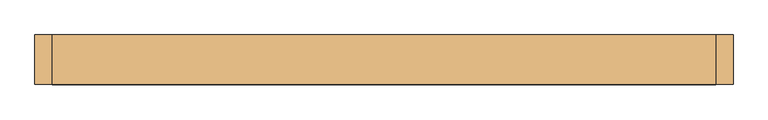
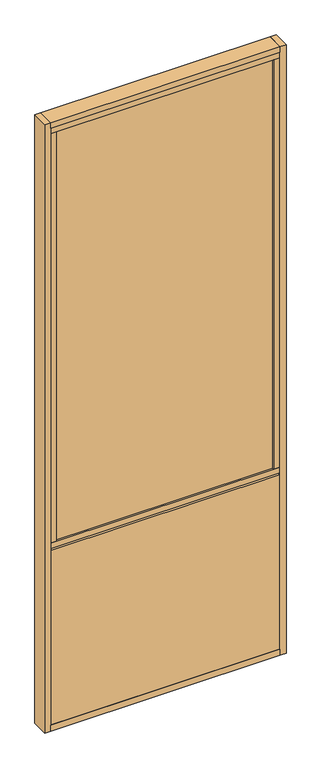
"""IFC4 building model written with IfcOpenShell, lengths in millimetres: door geometry, Mobiliário_Mobiliário de Escritório_Painel Misto Vidro Duplo com Persiana - AET e AEL (Completo)_Marelli : AET - Temperado."""

import ifcopenshell
import ifcopenshell.guid

model = None  # the IFC model being written
_history = None  # IfcOwnerHistory: only IFC2X3 demands one
_inside = {}  # id of a spatial element -> (the spatial element, [elements in it])
_under = {}  # id of a project, library or spatial element -> (it, [spatial elements below it])
_declared = {}  # id of a project -> (the project, [libraries it declares])
_typed = {}  # id of a type object -> (the type object, [elements of that type])
_made_of = {}  # id of a material, layer set ... -> (it, [elements and type objects made of it])


def new_model(schema):
    """Start an empty IFC model of exactly this schema.

    Asked for "IFC4X3", IfcOpenShell would pick the latest addendum, in which some entities
    have other attributes; the version numbers below select the first issue.
    IFC2X3 requires an IfcOwnerHistory on every rooted entity: one is made here for all.
    """
    global model, _history
    if schema == "IFC4X3":
        model = ifcopenshell.file(schema_version=(4, 3, 0, 0))
    else:
        model = ifcopenshell.file(schema=schema)
    _inside.clear()
    _under.clear()
    _declared.clear()
    _typed.clear()
    _made_of.clear()
    _history = None
    if model.schema == "IFC2X3":
        org = make("IfcOrganization", Name="unknown")
        user = make(
            "IfcPersonAndOrganization",
            ThePerson=make("IfcPerson", FamilyName="unknown"),
            TheOrganization=org,
        )
        app = make(
            "IfcApplication",
            ApplicationDeveloper=org,
            Version="unknown",
            ApplicationFullName="unknown",
            ApplicationIdentifier="unknown",
        )
        _history = make(
            "IfcOwnerHistory",
            OwningUser=user,
            OwningApplication=app,
            ChangeAction="ADDED",
            CreationDate=0,
        )
    return model


def make(cls, **values):
    """One entity of the class cls with the attributes given. An attribute that is None is left unset."""
    return model.create_entity(
        cls, **{name: value for name, value in values.items() if value is not None}
    )


def rooted(cls, **values):
    """An entity with a GlobalId (a new one), such as an element, a storey or a relation."""
    return make(cls, GlobalId=ifcopenshell.guid.new(), OwnerHistory=_history, **values)


def si_unit(unit_type, name, prefix=None):
    """IfcSIUnit, for example si_unit("LENGTHUNIT", "METRE", prefix="MILLI")."""
    return make("IfcSIUnit", UnitType=unit_type, Prefix=prefix, Name=name)


def assignment(units):
    """IfcUnitAssignment: the units of a project."""
    return None if units is None else make("IfcUnitAssignment", Units=units)


def point(xyz):
    """IfcCartesianPoint."""
    return None if xyz is None else make("IfcCartesianPoint", Coordinates=xyz)


def direction(xyz):
    """IfcDirection."""
    return None if xyz is None else make("IfcDirection", DirectionRatios=xyz)


def frame(location, z_axis=None, x_axis=None):
    """IfcAxis2Placement3D, a coordinate frame: its origin and axes. An axis left out is left unset."""
    return make(
        "IfcAxis2Placement3D",
        Location=point(location),
        Axis=direction(z_axis),
        RefDirection=direction(x_axis),
    )


def origin():
    """The frame at (0, 0, 0) with its axes left unset."""
    return frame((0.0, 0.0, 0.0))


def origin_with_axes():
    """The frame at (0, 0, 0) with the z axis (0, 0, 1) and the x axis (1, 0, 0) written out."""
    return frame((0.0, 0.0, 0.0), z_axis=(0.0, 0.0, 1.0), x_axis=(1.0, 0.0, 0.0))


def place(relative_to, where):
    """IfcLocalPlacement: puts the frame where relative to a parent placement (None: the world)."""
    return make(
        "IfcLocalPlacement", PlacementRelTo=relative_to, RelativePlacement=where
    )


def context(
    kind, dimensions, precision=None, world=None, true_north=None, identifier=None
):
    """IfcGeometricRepresentationContext, for example the 3D "Model" context."""
    return make(
        "IfcGeometricRepresentationContext",
        ContextIdentifier=identifier,
        ContextType=kind,
        CoordinateSpaceDimension=dimensions,
        Precision=precision,
        WorldCoordinateSystem=world,
        TrueNorth=true_north,
    )


def project(units=None, contexts=None):
    """IfcProject with its units and contexts."""
    return rooted(
        "IfcProject",
        Name="project",
        RepresentationContexts=contexts,
        UnitsInContext=assignment(units),
    )


def spatial(cls, under=None, at=None, **own):
    """A site, building, storey or space (cls), placed at a placement, below another one or the project."""
    s = rooted(cls, ObjectPlacement=at, **own)
    if under is not None:
        _under.setdefault(under.id(), (under, []))[1].append(s)
    return s


def polyline(points):
    """IfcPolyline through the points."""
    return make("IfcPolyline", Points=[point(p) for p in points])


def outline(outer, holes=None, kind="AREA"):
    """IfcArbitraryClosedProfileDef: a profile drawn as a closed curve; with holes, ...WithVoids."""
    if holes is None:
        return make("IfcArbitraryClosedProfileDef", ProfileType=kind, OuterCurve=outer)
    return make(
        "IfcArbitraryProfileDefWithVoids",
        ProfileType=kind,
        OuterCurve=outer,
        InnerCurves=holes,
    )


def extrude(swept, where, along, depth):
    """IfcExtrudedAreaSolid: the profile swept, set in the frame where, extruded along a direction by depth."""
    return make(
        "IfcExtrudedAreaSolid",
        SweptArea=swept,
        Position=where,
        ExtrudedDirection=direction(along),
        Depth=depth,
    )


def shape(context_of_items, identifier, shape_type, items):
    """IfcShapeRepresentation: the items that make up one representation, for example the "Body"."""
    return make(
        "IfcShapeRepresentation",
        ContextOfItems=context_of_items,
        RepresentationIdentifier=identifier,
        RepresentationType=shape_type,
        Items=items,
    )


def source(mapping_origin, context_of_items, identifier, shape_type, items):
    """IfcRepresentationMap: a shape defined once, which mapped items show again and again."""
    return make(
        "IfcRepresentationMap",
        MappingOrigin=mapping_origin,
        MappedRepresentation=shape(context_of_items, identifier, shape_type, items),
    )


def transform(
    local_origin,
    x_axis=None,
    y_axis=None,
    z_axis=None,
    scale=None,
    scale2=None,
    scale3=None,
    uniform=True,
):
    """IfcCartesianTransformationOperator3D, or its non-uniform kind. x_axis, y_axis, z_axis: its Axis1, 2, 3."""
    if uniform:
        return make(
            "IfcCartesianTransformationOperator3D",
            Axis1=direction(x_axis),
            Axis2=direction(y_axis),
            LocalOrigin=point(local_origin),
            Scale=scale,
            Axis3=direction(z_axis),
        )
    return make(
        "IfcCartesianTransformationOperator3DnonUniform",
        Axis1=direction(x_axis),
        Axis2=direction(y_axis),
        LocalOrigin=point(local_origin),
        Scale=scale,
        Axis3=direction(z_axis),
        Scale2=scale2,
        Scale3=scale3,
    )


def mapped(mapping_source, mapping_target):
    """IfcMappedItem: shows the shape of a source again, moved by a transform."""
    return make(
        "IfcMappedItem", MappingSource=mapping_source, MappingTarget=mapping_target
    )


def made_of(thing, what):
    """Note that an element or type object is made of a material, layer set ...; save() writes the relation."""
    if what is not None:
        _made_of.setdefault(what.id(), (what, []))[1].append(thing)
    return thing


def element(
    cls,
    number,
    at=None,
    inside=None,
    cuts=None,
    type_object=None,
    material=None,
    context=None,
    identifier="Body",
    shape_type=None,
    held_by="IfcProductDefinitionShape",
    body=None,
    shapes=None,
    **own,
):
    """One element of the class cls, such as IfcWall. Its Tag is "e" and its number.

    at: its placement. inside: the storey or other place that contains it. cuts: it is an
    opening in that element (IfcRelVoidsElement). A single representation is given by context,
    identifier, shape_type and body (its items); several are given by shapes. held_by: the class
    of the entity that holds the representations. save() writes the other relations.
    """
    e = rooted(cls, Tag="e%d" % number, ObjectPlacement=at, **own)
    if body is not None:
        shapes = [shape(context, identifier, shape_type, body)]
    if shapes is not None:
        e.Representation = make(held_by, Representations=shapes)
    if inside is not None:
        _inside.setdefault(inside.id(), (inside, []))[1].append(e)
    if cuts is not None:
        rooted(
            "IfcRelVoidsElement", RelatingBuildingElement=cuts, RelatedOpeningElement=e
        )
    if type_object is not None:
        _typed.setdefault(type_object.id(), (type_object, []))[1].append(e)
    return made_of(e, material)


def aggregate(whole, parts):
    """IfcRelAggregates: a whole, such as a stair, and the parts it consists of."""
    return rooted("IfcRelAggregates", RelatingObject=whole, RelatedObjects=parts)


def save(model, path):
    """Write the relations noted so far, then the file.

    IfcRelAggregates (storeys below a building ...), IfcRelContainedInSpatialStructure (elements
    in a storey), IfcRelDefinesByType, IfcRelAssociatesMaterial and IfcRelDeclares: one each for
    every whole, place, type object, material and project.
    """
    for whole, parts in _under.values():
        aggregate(whole, parts)
    for where, things in _inside.values():
        rooted(
            "IfcRelContainedInSpatialStructure",
            RelatedElements=things,
            RelatingStructure=where,
        )
    for kind, things in _typed.values():
        rooted("IfcRelDefinesByType", RelatedObjects=things, RelatingType=kind)
    for what, things in _made_of.values():
        rooted("IfcRelAssociatesMaterial", RelatedObjects=things, RelatingMaterial=what)
    for by, libraries in _declared.values():
        rooted("IfcRelDeclares", RelatingContext=by, RelatedDefinitions=libraries)
    model.write(path)


def door_84ce494f(model_context):
    return source(origin(), model_context, "Body", "SweptSolid", [
        extrude(outline(polyline([(570.0, 42.5), (570.0, -42.5), (-570.0, -42.5), (-570.0, 42.5), (570.0, 42.5)])), origin_with_axes(), (0.0, 0.0, 1.0), 30.0),
        extrude(outline(polyline([(570.0, 39.5), (570.0, 21.5), (-570.0, 21.5), (-570.0, 39.5), (570.0, 39.5)])), frame((0.0, 0.0, 30.0), z_axis=(0.0, 0.0, 1.0), x_axis=(1.0, 0.0, 0.0)), (0.0, 0.0, 1.0), 916.5),
        extrude(outline(polyline([(570.0, 21.5), (570.0, -21.5), (-570.0, -21.5), (-570.0, 21.5), (570.0, 21.5)])), frame((0.0, 0.0, 913.5), z_axis=(0.0, 0.0, 1.0), x_axis=(1.0, 0.0, 0.0)), (0.0, 0.0, 1.0), 43.0),
        extrude(outline(polyline([(570.0, -39.5), (-570.0, -39.5), (-570.0, -21.5), (570.0, -21.5), (570.0, -39.5)])), frame((0.0, 0.0, 30.0), z_axis=(0.0, 0.0, 1.0), x_axis=(1.0, 0.0, 0.0)), (0.0, 0.0, 1.0), 916.5),
        extrude(outline(polyline([(570.0, 39.5), (570.0, -39.5), (-570.0, -39.5), (-570.0, 39.5), (570.0, 39.5)])), frame((0.0, 0.0, 956.5), z_axis=(0.0, 0.0, 1.0), x_axis=(1.0, 0.0, 0.0)), (0.0, 0.0, 1.0), 30.0),
        extrude(outline(polyline([(570.0, 42.5), (570.0, -42.5), (-570.0, -42.5), (-570.0, 42.5), (570.0, 42.5)])), frame((0.0, 0.0, 3170.0), z_axis=(0.0, 0.0, 1.0), x_axis=(1.0, 0.0, 0.0)), (0.0, 0.0, 1.0), 30.0),
        extrude(outline(polyline([(570.0, 39.5), (570.0, -39.5), (-570.0, -39.5), (-570.0, 39.5), (570.0, 39.5)])), frame((0.0, 0.0, 3140.0), z_axis=(0.0, 0.0, 1.0), x_axis=(1.0, 0.0, 0.0)), (0.0, 0.0, 1.0), 30.0),
        extrude(outline(polyline([(540.0, 13.6216022), (540.0, -11.3783978), (-540.0, -11.3783978), (-540.0, 13.6216022), (540.0, 13.6216022)])), frame((0.0, 0.0, 3107.0), z_axis=(0.0, 0.0, 1.0), x_axis=(1.0, 0.0, 0.0)), (0.0, 0.0, 1.0), 25.0),
        extrude(outline(polyline([(-600.0, -42.5), (-600.0, 42.5), (-570.0, 42.5), (-570.0, -42.5), (-600.0, -42.5)])), origin_with_axes(), (0.0, 0.0, 1.0), 3200.0),
        extrude(outline(polyline([(600.0, -42.5), (570.0, -42.5), (570.0, 42.5), (600.0, 42.5), (600.0, -42.5)])), origin_with_axes(), (0.0, 0.0, 1.0), 3200.0),
        extrude(outline(polyline([(-540.0, 39.5), (-540.0, -39.5), (-570.0, -39.5), (-570.0, 39.5), (-540.0, 39.5)])), frame((0.0, 0.0, 986.5), z_axis=(0.0, 0.0, 1.0), x_axis=(1.0, 0.0, 0.0)), (0.0, 0.0, 1.0), 2153.5),
        extrude(outline(polyline([(540.0, 39.5), (570.0, 39.5), (570.0, -39.5), (540.0, -39.5), (540.0, 39.5)])), frame((0.0, 0.0, 986.5), z_axis=(0.0, 0.0, 1.0), x_axis=(1.0, 0.0, 0.0)), (0.0, 0.0, 1.0), 2153.5),
        extrude(outline(polyline([(540.0, 31.0), (540.0, 25.0), (-540.0, 25.0), (-540.0, 31.0), (540.0, 31.0)])), frame((0.0, 0.0, 986.5), z_axis=(0.0, 0.0, 1.0), x_axis=(1.0, 0.0, 0.0)), (0.0, 0.0, 1.0), 2153.5),
        extrude(outline(polyline([(540.0, -25.0), (540.0, -31.0), (-540.0, -31.0), (-540.0, -25.0), (540.0, -25.0)])), frame((0.0, 0.0, 986.5), z_axis=(0.0, 0.0, 1.0), x_axis=(1.0, 0.0, 0.0)), (0.0, 0.0, 1.0), 2153.5),
        extrude(outline(polyline([(540.0, 8.0), (540.0, -8.0), (-540.0, -8.0), (-540.0, 8.0), (540.0, 8.0)])), frame((0.0, 0.0, 1051.2), z_axis=(0.0, 0.0, 1.0), x_axis=(1.0, 0.0, 0.0)), (0.0, 0.0, 1.0), 0.8),
        extrude(outline(polyline([(540.0, 8.0), (540.0, -8.0), (-540.0, -8.0), (-540.0, 8.0), (540.0, 8.0)])), frame((0.0, 0.0, 1081.2), z_axis=(0.0, 0.0, 1.0), x_axis=(1.0, 0.0, 0.0)), (0.0, 0.0, 1.0), 0.8),
        extrude(outline(polyline([(540.0, 8.0), (540.0, -8.0), (-540.0, -8.0), (-540.0, 8.0), (540.0, 8.0)])), frame((0.0, 0.0, 1111.2), z_axis=(0.0, 0.0, 1.0), x_axis=(1.0, 0.0, 0.0)), (0.0, 0.0, 1.0), 0.8),
        extrude(outline(polyline([(540.0, 8.0), (540.0, -8.0), (-540.0, -8.0), (-540.0, 8.0), (540.0, 8.0)])), frame((0.0, 0.0, 1141.2), z_axis=(0.0, 0.0, 1.0), x_axis=(1.0, 0.0, 0.0)), (0.0, 0.0, 1.0), 0.8),
        extrude(outline(polyline([(540.0, 8.0), (540.0, -8.0), (-540.0, -8.0), (-540.0, 8.0), (540.0, 8.0)])), frame((0.0, 0.0, 1171.2), z_axis=(0.0, 0.0, 1.0), x_axis=(1.0, 0.0, 0.0)), (0.0, 0.0, 1.0), 0.8),
        extrude(outline(polyline([(540.0, 8.0), (540.0, -8.0), (-540.0, -8.0), (-540.0, 8.0), (540.0, 8.0)])), frame((0.0, 0.0, 1021.2), z_axis=(0.0, 0.0, 1.0), x_axis=(1.0, 0.0, 0.0)), (0.0, 0.0, 1.0), 0.8),
        extrude(outline(polyline([(540.0, 8.0), (540.0, -8.0), (-540.0, -8.0), (-540.0, 8.0), (540.0, 8.0)])), frame((0.0, 0.0, 3091.2), z_axis=(0.0, 0.0, 1.0), x_axis=(1.0, 0.0, 0.0)), (0.0, 0.0, 1.0), 0.8),
        extrude(outline(polyline([(540.0, 8.0), (540.0, -8.0), (-540.0, -8.0), (-540.0, 8.0), (540.0, 8.0)])), frame((0.0, 0.0, 3061.2), z_axis=(0.0, 0.0, 1.0), x_axis=(1.0, 0.0, 0.0)), (0.0, 0.0, 1.0), 0.8),
        extrude(outline(polyline([(540.0, 8.0), (540.0, -8.0), (-540.0, -8.0), (-540.0, 8.0), (540.0, 8.0)])), frame((0.0, 0.0, 3031.2), z_axis=(0.0, 0.0, 1.0), x_axis=(1.0, 0.0, 0.0)), (0.0, 0.0, 1.0), 0.8),
        extrude(outline(polyline([(540.0, 8.0), (540.0, -8.0), (-540.0, -8.0), (-540.0, 8.0), (540.0, 8.0)])), frame((0.0, 0.0, 3001.2), z_axis=(0.0, 0.0, 1.0), x_axis=(1.0, 0.0, 0.0)), (0.0, 0.0, 1.0), 0.8),
        extrude(outline(polyline([(540.0, 8.0), (540.0, -8.0), (-540.0, -8.0), (-540.0, 8.0), (540.0, 8.0)])), frame((0.0, 0.0, 2971.2), z_axis=(0.0, 0.0, 1.0), x_axis=(1.0, 0.0, 0.0)), (0.0, 0.0, 1.0), 0.8),
        extrude(outline(polyline([(540.0, 8.0), (540.0, -8.0), (-540.0, -8.0), (-540.0, 8.0), (540.0, 8.0)])), frame((0.0, 0.0, 2941.2), z_axis=(0.0, 0.0, 1.0), x_axis=(1.0, 0.0, 0.0)), (0.0, 0.0, 1.0), 0.8),
        extrude(outline(polyline([(540.0, 8.0), (540.0, -8.0), (-540.0, -8.0), (-540.0, 8.0), (540.0, 8.0)])), frame((0.0, 0.0, 2911.2), z_axis=(0.0, 0.0, 1.0), x_axis=(1.0, 0.0, 0.0)), (0.0, 0.0, 1.0), 0.8),
        extrude(outline(polyline([(540.0, 8.0), (540.0, -8.0), (-540.0, -8.0), (-540.0, 8.0), (540.0, 8.0)])), frame((0.0, 0.0, 2881.2), z_axis=(0.0, 0.0, 1.0), x_axis=(1.0, 0.0, 0.0)), (0.0, 0.0, 1.0), 0.8),
        extrude(outline(polyline([(540.0, 8.0), (540.0, -8.0), (-540.0, -8.0), (-540.0, 8.0), (540.0, 8.0)])), frame((0.0, 0.0, 2851.2), z_axis=(0.0, 0.0, 1.0), x_axis=(1.0, 0.0, 0.0)), (0.0, 0.0, 1.0), 0.8),
        extrude(outline(polyline([(540.0, 8.0), (540.0, -8.0), (-540.0, -8.0), (-540.0, 8.0), (540.0, 8.0)])), frame((0.0, 0.0, 2821.2), z_axis=(0.0, 0.0, 1.0), x_axis=(1.0, 0.0, 0.0)), (0.0, 0.0, 1.0), 0.8),
        extrude(outline(polyline([(540.0, 8.0), (540.0, -8.0), (-540.0, -8.0), (-540.0, 8.0), (540.0, 8.0)])), frame((0.0, 0.0, 2791.2), z_axis=(0.0, 0.0, 1.0), x_axis=(1.0, 0.0, 0.0)), (0.0, 0.0, 1.0), 0.8),
        extrude(outline(polyline([(540.0, 8.0), (540.0, -8.0), (-540.0, -8.0), (-540.0, 8.0), (540.0, 8.0)])), frame((0.0, 0.0, 2761.2), z_axis=(0.0, 0.0, 1.0), x_axis=(1.0, 0.0, 0.0)), (0.0, 0.0, 1.0), 0.8),
        extrude(outline(polyline([(540.0, 8.0), (540.0, -8.0), (-540.0, -8.0), (-540.0, 8.0), (540.0, 8.0)])), frame((0.0, 0.0, 2731.2), z_axis=(0.0, 0.0, 1.0), x_axis=(1.0, 0.0, 0.0)), (0.0, 0.0, 1.0), 0.8),
        extrude(outline(polyline([(540.0, 8.0), (540.0, -8.0), (-540.0, -8.0), (-540.0, 8.0), (540.0, 8.0)])), frame((0.0, 0.0, 2701.2), z_axis=(0.0, 0.0, 1.0), x_axis=(1.0, 0.0, 0.0)), (0.0, 0.0, 1.0), 0.8),
        extrude(outline(polyline([(540.0, 8.0), (540.0, -8.0), (-540.0, -8.0), (-540.0, 8.0), (540.0, 8.0)])), frame((0.0, 0.0, 2671.2), z_axis=(0.0, 0.0, 1.0), x_axis=(1.0, 0.0, 0.0)), (0.0, 0.0, 1.0), 0.8),
        extrude(outline(polyline([(540.0, 8.0), (540.0, -8.0), (-540.0, -8.0), (-540.0, 8.0), (540.0, 8.0)])), frame((0.0, 0.0, 2641.2), z_axis=(0.0, 0.0, 1.0), x_axis=(1.0, 0.0, 0.0)), (0.0, 0.0, 1.0), 0.8),
        extrude(outline(polyline([(540.0, 8.0), (540.0, -8.0), (-540.0, -8.0), (-540.0, 8.0), (540.0, 8.0)])), frame((0.0, 0.0, 2611.2), z_axis=(0.0, 0.0, 1.0), x_axis=(1.0, 0.0, 0.0)), (0.0, 0.0, 1.0), 0.8),
        extrude(outline(polyline([(540.0, 8.0), (540.0, -8.0), (-540.0, -8.0), (-540.0, 8.0), (540.0, 8.0)])), frame((0.0, 0.0, 2581.2), z_axis=(0.0, 0.0, 1.0), x_axis=(1.0, 0.0, 0.0)), (0.0, 0.0, 1.0), 0.8),
        extrude(outline(polyline([(540.0, 8.0), (540.0, -8.0), (-540.0, -8.0), (-540.0, 8.0), (540.0, 8.0)])), frame((0.0, 0.0, 2551.2), z_axis=(0.0, 0.0, 1.0), x_axis=(1.0, 0.0, 0.0)), (0.0, 0.0, 1.0), 0.8),
        extrude(outline(polyline([(540.0, 8.0), (540.0, -8.0), (-540.0, -8.0), (-540.0, 8.0), (540.0, 8.0)])), frame((0.0, 0.0, 2521.2), z_axis=(0.0, 0.0, 1.0), x_axis=(1.0, 0.0, 0.0)), (0.0, 0.0, 1.0), 0.8),
        extrude(outline(polyline([(540.0, 8.0), (540.0, -8.0), (-540.0, -8.0), (-540.0, 8.0), (540.0, 8.0)])), frame((0.0, 0.0, 2491.2), z_axis=(0.0, 0.0, 1.0), x_axis=(1.0, 0.0, 0.0)), (0.0, 0.0, 1.0), 0.8),
        extrude(outline(polyline([(540.0, 8.0), (540.0, -8.0), (-540.0, -8.0), (-540.0, 8.0), (540.0, 8.0)])), frame((0.0, 0.0, 2461.2), z_axis=(0.0, 0.0, 1.0), x_axis=(1.0, 0.0, 0.0)), (0.0, 0.0, 1.0), 0.8),
        extrude(outline(polyline([(540.0, 8.0), (540.0, -8.0), (-540.0, -8.0), (-540.0, 8.0), (540.0, 8.0)])), frame((0.0, 0.0, 2431.2), z_axis=(0.0, 0.0, 1.0), x_axis=(1.0, 0.0, 0.0)), (0.0, 0.0, 1.0), 0.8),
        extrude(outline(polyline([(540.0, 8.0), (540.0, -8.0), (-540.0, -8.0), (-540.0, 8.0), (540.0, 8.0)])), frame((0.0, 0.0, 2401.2), z_axis=(0.0, 0.0, 1.0), x_axis=(1.0, 0.0, 0.0)), (0.0, 0.0, 1.0), 0.8),
        extrude(outline(polyline([(540.0, 8.0), (540.0, -8.0), (-540.0, -8.0), (-540.0, 8.0), (540.0, 8.0)])), frame((0.0, 0.0, 2371.2), z_axis=(0.0, 0.0, 1.0), x_axis=(1.0, 0.0, 0.0)), (0.0, 0.0, 1.0), 0.8),
        extrude(outline(polyline([(540.0, 8.0), (540.0, -8.0), (-540.0, -8.0), (-540.0, 8.0), (540.0, 8.0)])), frame((0.0, 0.0, 2341.2), z_axis=(0.0, 0.0, 1.0), x_axis=(1.0, 0.0, 0.0)), (0.0, 0.0, 1.0), 0.8),
        extrude(outline(polyline([(540.0, 8.0), (540.0, -8.0), (-540.0, -8.0), (-540.0, 8.0), (540.0, 8.0)])), frame((0.0, 0.0, 2311.2), z_axis=(0.0, 0.0, 1.0), x_axis=(1.0, 0.0, 0.0)), (0.0, 0.0, 1.0), 0.8),
        extrude(outline(polyline([(540.0, 8.0), (540.0, -8.0), (-540.0, -8.0), (-540.0, 8.0), (540.0, 8.0)])), frame((0.0, 0.0, 2281.2), z_axis=(0.0, 0.0, 1.0), x_axis=(1.0, 0.0, 0.0)), (0.0, 0.0, 1.0), 0.8),
        extrude(outline(polyline([(540.0, 8.0), (540.0, -8.0), (-540.0, -8.0), (-540.0, 8.0), (540.0, 8.0)])), frame((0.0, 0.0, 2251.2), z_axis=(0.0, 0.0, 1.0), x_axis=(1.0, 0.0, 0.0)), (0.0, 0.0, 1.0), 0.8),
        extrude(outline(polyline([(540.0, 8.0), (540.0, -8.0), (-540.0, -8.0), (-540.0, 8.0), (540.0, 8.0)])), frame((0.0, 0.0, 2221.2), z_axis=(0.0, 0.0, 1.0), x_axis=(1.0, 0.0, 0.0)), (0.0, 0.0, 1.0), 0.8),
        extrude(outline(polyline([(540.0, 8.0), (540.0, -8.0), (-540.0, -8.0), (-540.0, 8.0), (540.0, 8.0)])), frame((0.0, 0.0, 2191.2), z_axis=(0.0, 0.0, 1.0), x_axis=(1.0, 0.0, 0.0)), (0.0, 0.0, 1.0), 0.8),
        extrude(outline(polyline([(540.0, 8.0), (540.0, -8.0), (-540.0, -8.0), (-540.0, 8.0), (540.0, 8.0)])), frame((0.0, 0.0, 2161.2), z_axis=(0.0, 0.0, 1.0), x_axis=(1.0, 0.0, 0.0)), (0.0, 0.0, 1.0), 0.8),
        extrude(outline(polyline([(540.0, 8.0), (540.0, -8.0), (-540.0, -8.0), (-540.0, 8.0), (540.0, 8.0)])), frame((0.0, 0.0, 2131.2), z_axis=(0.0, 0.0, 1.0), x_axis=(1.0, 0.0, 0.0)), (0.0, 0.0, 1.0), 0.8),
        extrude(outline(polyline([(540.0, 8.0), (540.0, -8.0), (-540.0, -8.0), (-540.0, 8.0), (540.0, 8.0)])), frame((0.0, 0.0, 2101.2), z_axis=(0.0, 0.0, 1.0), x_axis=(1.0, 0.0, 0.0)), (0.0, 0.0, 1.0), 0.8),
        extrude(outline(polyline([(540.0, 8.0), (540.0, -8.0), (-540.0, -8.0), (-540.0, 8.0), (540.0, 8.0)])), frame((0.0, 0.0, 2071.2), z_axis=(0.0, 0.0, 1.0), x_axis=(1.0, 0.0, 0.0)), (0.0, 0.0, 1.0), 0.8),
        extrude(outline(polyline([(540.0, 8.0), (540.0, -8.0), (-540.0, -8.0), (-540.0, 8.0), (540.0, 8.0)])), frame((0.0, 0.0, 2041.2), z_axis=(0.0, 0.0, 1.0), x_axis=(1.0, 0.0, 0.0)), (0.0, 0.0, 1.0), 0.8),
        extrude(outline(polyline([(540.0, 8.0), (540.0, -8.0), (-540.0, -8.0), (-540.0, 8.0), (540.0, 8.0)])), frame((0.0, 0.0, 2011.2), z_axis=(0.0, 0.0, 1.0), x_axis=(1.0, 0.0, 0.0)), (0.0, 0.0, 1.0), 0.8),
        extrude(outline(polyline([(540.0, 8.0), (540.0, -8.0), (-540.0, -8.0), (-540.0, 8.0), (540.0, 8.0)])), frame((0.0, 0.0, 1981.2), z_axis=(0.0, 0.0, 1.0), x_axis=(1.0, 0.0, 0.0)), (0.0, 0.0, 1.0), 0.8),
        extrude(outline(polyline([(540.0, 8.0), (540.0, -8.0), (-540.0, -8.0), (-540.0, 8.0), (540.0, 8.0)])), frame((0.0, 0.0, 1951.2), z_axis=(0.0, 0.0, 1.0), x_axis=(1.0, 0.0, 0.0)), (0.0, 0.0, 1.0), 0.8),
        extrude(outline(polyline([(540.0, 8.0), (540.0, -8.0), (-540.0, -8.0), (-540.0, 8.0), (540.0, 8.0)])), frame((0.0, 0.0, 1921.2), z_axis=(0.0, 0.0, 1.0), x_axis=(1.0, 0.0, 0.0)), (0.0, 0.0, 1.0), 0.8),
        extrude(outline(polyline([(540.0, 8.0), (540.0, -8.0), (-540.0, -8.0), (-540.0, 8.0), (540.0, 8.0)])), frame((0.0, 0.0, 1891.2), z_axis=(0.0, 0.0, 1.0), x_axis=(1.0, 0.0, 0.0)), (0.0, 0.0, 1.0), 0.8),
        extrude(outline(polyline([(540.0, 8.0), (540.0, -8.0), (-540.0, -8.0), (-540.0, 8.0), (540.0, 8.0)])), frame((0.0, 0.0, 1861.2), z_axis=(0.0, 0.0, 1.0), x_axis=(1.0, 0.0, 0.0)), (0.0, 0.0, 1.0), 0.8),
        extrude(outline(polyline([(540.0, 8.0), (540.0, -8.0), (-540.0, -8.0), (-540.0, 8.0), (540.0, 8.0)])), frame((0.0, 0.0, 1831.2), z_axis=(0.0, 0.0, 1.0), x_axis=(1.0, 0.0, 0.0)), (0.0, 0.0, 1.0), 0.8),
        extrude(outline(polyline([(540.0, 8.0), (540.0, -8.0), (-540.0, -8.0), (-540.0, 8.0), (540.0, 8.0)])), frame((0.0, 0.0, 1801.2), z_axis=(0.0, 0.0, 1.0), x_axis=(1.0, 0.0, 0.0)), (0.0, 0.0, 1.0), 0.8),
        extrude(outline(polyline([(540.0, 8.0), (540.0, -8.0), (-540.0, -8.0), (-540.0, 8.0), (540.0, 8.0)])), frame((0.0, 0.0, 1501.2), z_axis=(0.0, 0.0, 1.0), x_axis=(1.0, 0.0, 0.0)), (0.0, 0.0, 1.0), 0.8),
        extrude(outline(polyline([(540.0, 8.0), (540.0, -8.0), (-540.0, -8.0), (-540.0, 8.0), (540.0, 8.0)])), frame((0.0, 0.0, 1531.2), z_axis=(0.0, 0.0, 1.0), x_axis=(1.0, 0.0, 0.0)), (0.0, 0.0, 1.0), 0.8),
        extrude(outline(polyline([(540.0, 8.0), (540.0, -8.0), (-540.0, -8.0), (-540.0, 8.0), (540.0, 8.0)])), frame((0.0, 0.0, 1561.2), z_axis=(0.0, 0.0, 1.0), x_axis=(1.0, 0.0, 0.0)), (0.0, 0.0, 1.0), 0.8),
        extrude(outline(polyline([(540.0, 8.0), (540.0, -8.0), (-540.0, -8.0), (-540.0, 8.0), (540.0, 8.0)])), frame((0.0, 0.0, 1591.2), z_axis=(0.0, 0.0, 1.0), x_axis=(1.0, 0.0, 0.0)), (0.0, 0.0, 1.0), 0.8),
        extrude(outline(polyline([(540.0, 8.0), (540.0, -8.0), (-540.0, -8.0), (-540.0, 8.0), (540.0, 8.0)])), frame((0.0, 0.0, 1621.2), z_axis=(0.0, 0.0, 1.0), x_axis=(1.0, 0.0, 0.0)), (0.0, 0.0, 1.0), 0.8),
        extrude(outline(polyline([(540.0, 8.0), (540.0, -8.0), (-540.0, -8.0), (-540.0, 8.0), (540.0, 8.0)])), frame((0.0, 0.0, 1651.2), z_axis=(0.0, 0.0, 1.0), x_axis=(1.0, 0.0, 0.0)), (0.0, 0.0, 1.0), 0.8),
        extrude(outline(polyline([(540.0, 8.0), (540.0, -8.0), (-540.0, -8.0), (-540.0, 8.0), (540.0, 8.0)])), frame((0.0, 0.0, 1681.2), z_axis=(0.0, 0.0, 1.0), x_axis=(1.0, 0.0, 0.0)), (0.0, 0.0, 1.0), 0.8),
        extrude(outline(polyline([(540.0, 8.0), (540.0, -8.0), (-540.0, -8.0), (-540.0, 8.0), (540.0, 8.0)])), frame((0.0, 0.0, 1711.2), z_axis=(0.0, 0.0, 1.0), x_axis=(1.0, 0.0, 0.0)), (0.0, 0.0, 1.0), 0.8),
        extrude(outline(polyline([(540.0, 8.0), (540.0, -8.0), (-540.0, -8.0), (-540.0, 8.0), (540.0, 8.0)])), frame((0.0, 0.0, 1741.2), z_axis=(0.0, 0.0, 1.0), x_axis=(1.0, 0.0, 0.0)), (0.0, 0.0, 1.0), 0.8),
        extrude(outline(polyline([(540.0, 8.0), (540.0, -8.0), (-540.0, -8.0), (-540.0, 8.0), (540.0, 8.0)])), frame((0.0, 0.0, 1771.2), z_axis=(0.0, 0.0, 1.0), x_axis=(1.0, 0.0, 0.0)), (0.0, 0.0, 1.0), 0.8),
        extrude(outline(polyline([(540.0, 8.0), (540.0, -8.0), (-540.0, -8.0), (-540.0, 8.0), (540.0, 8.0)])), frame((0.0, 0.0, 1201.2), z_axis=(0.0, 0.0, 1.0), x_axis=(1.0, 0.0, 0.0)), (0.0, 0.0, 1.0), 0.8),
        extrude(outline(polyline([(540.0, 8.0), (540.0, -8.0), (-540.0, -8.0), (-540.0, 8.0), (540.0, 8.0)])), frame((0.0, 0.0, 1471.2), z_axis=(0.0, 0.0, 1.0), x_axis=(1.0, 0.0, 0.0)), (0.0, 0.0, 1.0), 0.8),
        extrude(outline(polyline([(540.0, 8.0), (540.0, -8.0), (-540.0, -8.0), (-540.0, 8.0), (540.0, 8.0)])), frame((0.0, 0.0, 1441.2), z_axis=(0.0, 0.0, 1.0), x_axis=(1.0, 0.0, 0.0)), (0.0, 0.0, 1.0), 0.8),
        extrude(outline(polyline([(540.0, 8.0), (540.0, -8.0), (-540.0, -8.0), (-540.0, 8.0), (540.0, 8.0)])), frame((0.0, 0.0, 1411.2), z_axis=(0.0, 0.0, 1.0), x_axis=(1.0, 0.0, 0.0)), (0.0, 0.0, 1.0), 0.8),
        extrude(outline(polyline([(540.0, 8.0), (540.0, -8.0), (-540.0, -8.0), (-540.0, 8.0), (540.0, 8.0)])), frame((0.0, 0.0, 1381.2), z_axis=(0.0, 0.0, 1.0), x_axis=(1.0, 0.0, 0.0)), (0.0, 0.0, 1.0), 0.8),
        extrude(outline(polyline([(540.0, 8.0), (540.0, -8.0), (-540.0, -8.0), (-540.0, 8.0), (540.0, 8.0)])), frame((0.0, 0.0, 1351.2), z_axis=(0.0, 0.0, 1.0), x_axis=(1.0, 0.0, 0.0)), (0.0, 0.0, 1.0), 0.8),
        extrude(outline(polyline([(540.0, 8.0), (540.0, -8.0), (-540.0, -8.0), (-540.0, 8.0), (540.0, 8.0)])), frame((0.0, 0.0, 1321.2), z_axis=(0.0, 0.0, 1.0), x_axis=(1.0, 0.0, 0.0)), (0.0, 0.0, 1.0), 0.8),
        extrude(outline(polyline([(540.0, 8.0), (540.0, -8.0), (-540.0, -8.0), (-540.0, 8.0), (540.0, 8.0)])), frame((0.0, 0.0, 1291.2), z_axis=(0.0, 0.0, 1.0), x_axis=(1.0, 0.0, 0.0)), (0.0, 0.0, 1.0), 0.8),
        extrude(outline(polyline([(540.0, 8.0), (540.0, -8.0), (-540.0, -8.0), (-540.0, 8.0), (540.0, 8.0)])), frame((0.0, 0.0, 1261.2), z_axis=(0.0, 0.0, 1.0), x_axis=(1.0, 0.0, 0.0)), (0.0, 0.0, 1.0), 0.8),
        extrude(outline(polyline([(540.0, 8.0), (540.0, -8.0), (-540.0, -8.0), (-540.0, 8.0), (540.0, 8.0)])), frame((0.0, 0.0, 1231.2), z_axis=(0.0, 0.0, 1.0), x_axis=(1.0, 0.0, 0.0)), (0.0, 0.0, 1.0), 0.8),
    ])


if __name__ == "__main__":
    model = new_model("IFC4")
    model_context = context("Model", 3, world=origin())
    ifc_project = project(units=[si_unit("LENGTHUNIT", "METRE", prefix="MILLI")], contexts=[model_context])
    site = spatial("IfcSite", under=ifc_project)
    building = spatial("IfcBuilding", under=site)
    placement = place(None, origin())
    door_shape = door_84ce494f(model_context)
    element("IfcDoor", 1, ObjectType="Mobiliário_Mobiliário de Escritório_Painel Misto Vidro Duplo com Persiana - AET e AEL (Completo)_Marelli : AET - Temperado", at=placement, inside=building, context=model_context, shape_type="MappedRepresentation", body=[
        mapped(door_shape, transform((0.0, 0.0, 0.0), x_axis=(1.0, 0.0, 0.0), y_axis=(0.0, 1.0, 0.0), z_axis=(0.0, 0.0, 1.0))),
    ])
    save(model, "model.ifc")
